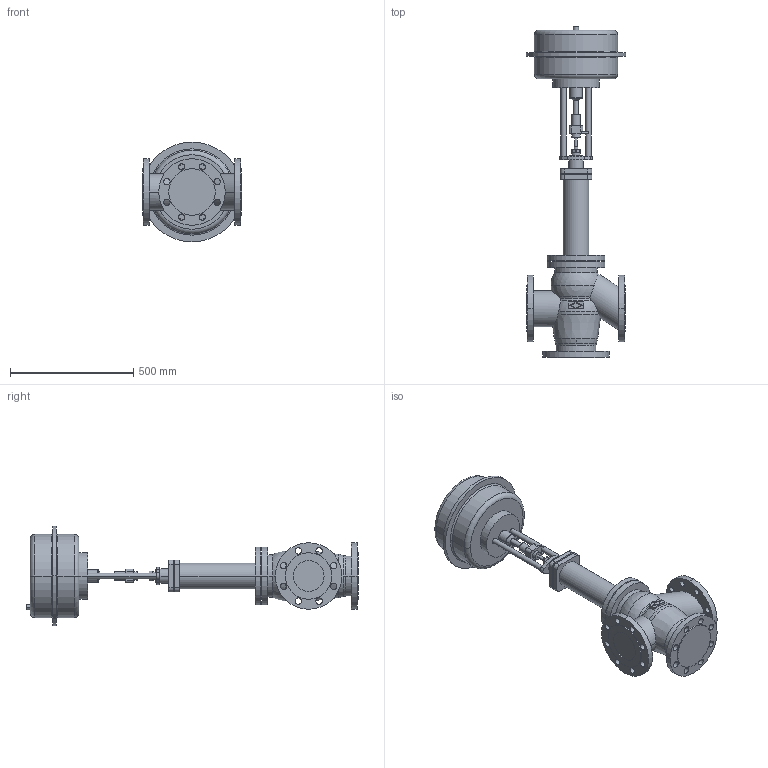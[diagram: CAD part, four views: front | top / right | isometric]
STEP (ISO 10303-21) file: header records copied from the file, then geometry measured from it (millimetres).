
FILE_DESCRIPTION(('OneSpaceDesigner STEP Export'),'2;1');
FILE_NAME('c000000765.stp','2007-01-25T 8:13:48',(''),(''),'OneSpace Designer STEP processor for AP214 (Solid Model)','OneSpace Designer 14.00B 27-May-2006 (C) CoCreate Software GmbH','');
FILE_SCHEMA(('AUTOMOTIVE_DESIGN { 1 0 10303 214 1 1 1 1 }'));
Length unit declared in the file: millimetre
Products named in the file (2): 1; 2
Bounding box: 405 x 1346.2 x 405 mm (x, y, z)
Volume: 41699100.2 mm3; surface area: 1489243.3 mm2
Topology: 2 solids, 2 shells, 254 faces, 638 edges, 416 vertices
Faces by surface type: cylinder 136, plane 88, torus 18, sphere 8, cone 4
Entity records: 7036 total; most frequent: CARTESIAN_POINT 1407, ORIENTED_EDGE 1260, DIRECTION 1030, EDGE_CURVE 630, VERTEX_POINT 416, AXIS2_PLACEMENT_3D 380, EDGE_LOOP 338, VECTOR 270
